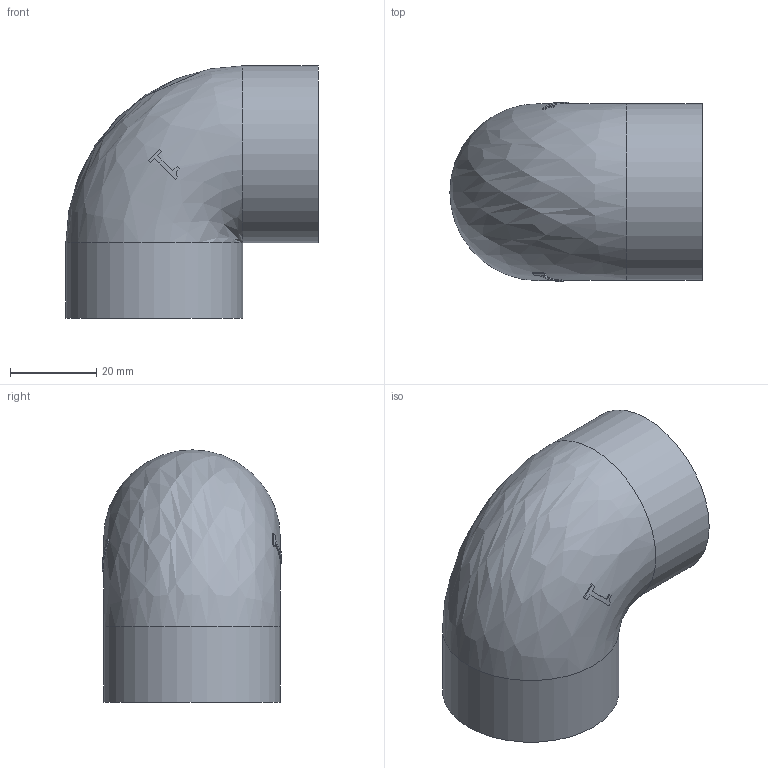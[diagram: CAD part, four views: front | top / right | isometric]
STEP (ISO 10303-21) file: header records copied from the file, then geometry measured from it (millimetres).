
FILE_DESCRIPTION(/* description */ ('ＳＵＳ３０４'),/* implementation_level */ '2;1');
FILE_NAME(/* name */ 'C:\Users\Fujimoto-s\OneDrive\Inventor\WorkSpace\\X2\305D306E4ED6\X0\\ホームページ用\\X2\30C030A630F330ED30FC30C97D206750\X0\\ねじ込み継手\90L-25A-1\90L-25A-1.stp',/* time_stamp */ '2024-08-07T16:54:05+09:00',/* author */ ('Fujimoto-s'),/* organization */ (''),/* preprocessor_version */ 'ST-DEVELOPER v15.2',/* originating_system */ 'Autodesk Inventor 2014',/* authorisation */ '');
FILE_SCHEMA (('AUTOMOTIVE_DESIGN { 1 0 10303 214 3 1 1 }'));
Length unit declared in the file: millimetre
Products named in the file (1): 90L-25A-1
Bounding box: 58.5 x 41.58 x 58.5 mm (x, y, z)
Volume: 44716 mm3; surface area: 16086 mm2
Topology: 1 solids, 1 shells, 36 faces, 93 edges, 59 vertices
Faces by surface type: plane 24, bspline 5, cylinder 4, cone 2, torus 1
Full cylindrical faces by diameter (mm): 29 x2, 41 x2
Entity records: 1381 total; most frequent: CARTESIAN_POINT 643, ORIENTED_EDGE 160, DIRECTION 106, EDGE_CURVE 80, VERTEX_POINT 55, B_SPLINE_CURVE_WITH_KNOTS 48, EDGE_LOOP 47, AXIS2_PLACEMENT_3D 42
